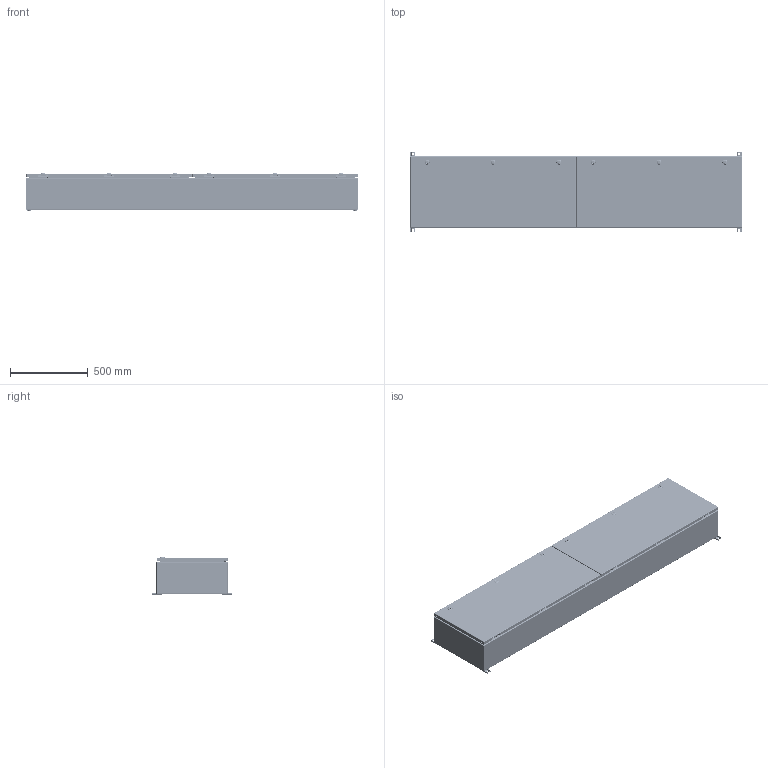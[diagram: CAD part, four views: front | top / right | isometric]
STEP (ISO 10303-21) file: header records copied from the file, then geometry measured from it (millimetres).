
FILE_DESCRIPTION(/* description */ ('1412BTCU 225A - 3 Wires x 84" Assembly'),/* implementation_level */ '2;1');
FILE_NAME(/* name */ 'C:\Vault_Workspace\Inventor_Dwg\BoxCad\Result\1412BTCU07203\e-mail\3D\1412BTCU07203.stp',/* time_stamp */ '2022-09-06T12:16:52-04:00',/* author */ ('BoxCad'),/* organization */ (''),/* preprocessor_version */ 'ST-DEVELOPER v18.1',/* originating_system */ 'Autodesk Inventor 2020',/* authorisation */ '');
FILE_SCHEMA (('AUTOMOTIVE_DESIGN { 1 0 10303 214 3 1 1 }'));
Products named in the file (64): 1412BTCU07203; 1412BTCU07203B; 1412BTCU07203B-P; 1412BTCU07203E-P; STK-Q-16005; iLogic_STK-G-00701; STK-Q-00260; STK-Q-07220-1; STK-Q-07220-A; STK-Q-07220-B; 1412BTCU07203C; 1412BTCU07203C-P; 1412BTCU07203F-P; 1412BTCU07203G; STK-Q-16080; STK-K-09800; STK-Q-33014; STK-Q-90398; STK-Q-40095; STK-Q-63410; STK-S-00100; STK-P-02400S; STK-A-880SCQ4-SL-1; STK-A-880SCQ4-SL-2; STK-A-880SCQ4-SL-3; STK-A-880SCQ4-SL-4; STK-A-880SCQ4-SL-5; STK-Q-78141; STK-A-880SCQ4-SL-6; STK-Q-78110; STK-Q-78120; STK-Q-78145; STK-Q-03200; STK-Q-78125; STK-Q-78140; STK-Q-90390; STK-Q-78160; 1412BTCU07203IP1; 1412BTCU07203IP1-P; 1412BTCU07203IP2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
Assembly tree (189 placements, depth 4):
  1412BTCU07203
    1412BTCU07203B
      1412BTCU07203B-P
      1412BTCU07203E-P
      STK-Q-16080  x2
      STK-Q-16005  x10
      iLogic_STK-G-00701
      STK-Q-00260  x10
      STK-Q-07220-1  x10
        STK-Q-07220-A
        STK-Q-07220-B
      STK-S-00100
      STK-P-02400S
    1412BTCU07203C
      1412BTCU07203C-P
      1412BTCU07203F-P
      1412BTCU07203G  x2
      STK-Q-16080  x2
      STK-K-09800  x6
        STK-Q-33014
        STK-Q-90398
        STK-Q-40095
        STK-Q-63410
      STK-S-00100
      STK-P-02400S
      STK-A-880SCQ4-SL-1
        STK-Q-78110
        STK-Q-78120
        STK-Q-78145
        STK-Q-03200
        STK-Q-78125
        STK-Q-78141
        STK-Q-90390
        STK-Q-78160
      STK-A-880SCQ4-SL-2
        STK-Q-78110
        STK-Q-78120
        STK-Q-78145
        STK-Q-03200
        STK-Q-78125
        STK-Q-78141
        STK-Q-90390
        STK-Q-78160
      STK-A-880SCQ4-SL-3
        STK-Q-78110
        STK-Q-78120
        STK-Q-78145
        STK-Q-03200
        STK-Q-78125
        STK-Q-78141
        STK-Q-90390
        STK-Q-78160
      STK-A-880SCQ4-SL-4
        STK-Q-78110
        STK-Q-78120
        STK-Q-78145
        STK-Q-03200
        STK-Q-78125
        STK-Q-78141
        STK-Q-90390
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Bounding box: 2133.6 x 514.35 x 243.4 mm (x, y, z)
Volume: 8531054.4 mm3; surface area: 8790115.7 mm2
Topology: 257 solids, 257 shells, 34531 faces, 90135 edges, 56082 vertices
Faces by surface type: plane 12171, bspline 9424, cylinder 8910, torus 2656, sphere 834, cone 536
Full cylindrical faces by diameter (mm): 0.75 x14, 0.762 x14, 1 x24, 1.1 x24, 3.2 x12, 4.5 x36, 4.521 x24, 4.85 x48, 4.95 x12, 5 x10, 5.1 x102, 5.6 x6, 5.9 x234, 6.65 x19, 6.8 x10, 6.85 x68, 7.3 x6, 7.366 x8, 7.8 x369, 7.9 x10, 8 x50, 8.25 x18, 8.382 x6, 8.6 x12, 9.5 x10, 9.6 x6, 9.7 x48, 9.906 x4, 10 x6, 10.312 x2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
Entity records: 219947 total; most frequent: CARTESIAN_POINT 85471, ORIENTED_EDGE 29400, DIRECTION 24463, EDGE_CURVE 14700, VERTEX_POINT 9319, AXIS2_PLACEMENT_3D 8537, LINE 7389, VECTOR 7389
